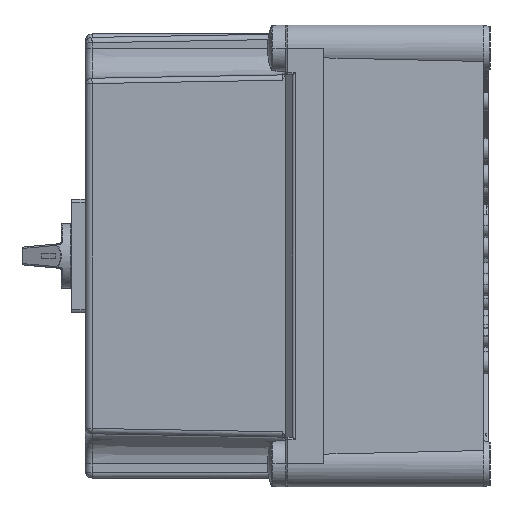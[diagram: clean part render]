
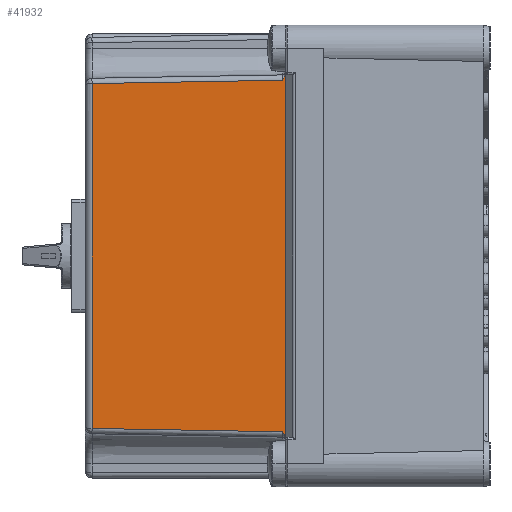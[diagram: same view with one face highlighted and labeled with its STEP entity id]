
A CAD part, left-side view. The second image highlights one B-rep face of the part: STEP entity #41932.
In plain terms, the highlighted planar face has unit normal (-1, 0.018, 0).
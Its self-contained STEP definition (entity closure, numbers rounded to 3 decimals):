
#524=DIRECTION('',(-0.017,-1.,-0.017));
#525=VECTOR('',#524,107.137);
#526=CARTESIAN_POINT('',(-223.096,120.57,-97.097));
#527=LINE('2483',#526,#525);
#528=CARTESIAN_POINT('',(-224.966,13.465,-98.966));
#566=DIRECTION('',(0.,0.,1.));
#567=VECTOR('',#566,194.193);
#568=CARTESIAN_POINT('',(-223.096,120.57,-97.097));
#569=LINE('2465',#568,#567);
#570=DIRECTION('',(0.,0.,-1.));
#571=VECTOR('',#570,205.879);
#572=CARTESIAN_POINT('',(-225.,11.5,102.94));
#573=LINE('2339',#572,#571);
#666=CARTESIAN_POINT('',(-224.966,13.465,98.966));
#668=DIRECTION('',(-0.017,-1.,0.017));
#669=VECTOR('',#668,107.137);
#670=CARTESIAN_POINT('',(-223.096,120.57,97.097));
#671=LINE('2486',#670,#669);
#2092=CARTESIAN_POINT('',(-224.966,13.465,
-98.966));
#2093=CARTESIAN_POINT('',(-224.967,13.396,
-99.051));
#2094=CARTESIAN_POINT('',(-224.969,13.256,
-99.222));
#2095=CARTESIAN_POINT('',(-224.973,13.047,
-99.484));
#2096=CARTESIAN_POINT('',(-224.977,12.842,
-99.748));
#2097=CARTESIAN_POINT('',(-224.98,12.644,
-100.014));
#2098=CARTESIAN_POINT('',(-224.983,12.459,
-100.279));
#2099=CARTESIAN_POINT('',(-224.986,12.286,
-100.545));
#2100=CARTESIAN_POINT('',(-224.989,12.128,
-100.812));
#2101=CARTESIAN_POINT('',(-224.992,11.985,
-101.079));
#2102=CARTESIAN_POINT('',(-224.994,11.86,
-101.346));
#2103=CARTESIAN_POINT('',(-224.996,11.754,
-101.607));
#2104=CARTESIAN_POINT('',(-224.997,11.668,
-101.86));
#2105=CARTESIAN_POINT('',(-224.998,11.603,
-102.097));
#2106=CARTESIAN_POINT('',(-224.999,11.556,
-102.32));
#2107=CARTESIAN_POINT('',(-225.,11.523,
-102.533));
#2108=CARTESIAN_POINT('',(-225.,11.504,
-102.738));
#2109=CARTESIAN_POINT('',(-225.,11.5,
-102.873));
#2110=CARTESIAN_POINT('',(-225.,11.5,
-102.94));
#2431=CARTESIAN_POINT('',(-225.,11.5,
-102.94));
#2461=CARTESIAN_POINT('',(-225.,11.5,102.94));
#18153=CARTESIAN_POINT('',(-225.,11.5,
102.94));
#18154=CARTESIAN_POINT('',(-225.,11.5,
102.873));
#18155=CARTESIAN_POINT('',(-225.,11.504,
102.738));
#18156=CARTESIAN_POINT('',(-225.,11.523,
102.533));
#18157=CARTESIAN_POINT('',(-224.999,11.556,
102.321));
#18158=CARTESIAN_POINT('',(-224.998,11.603,
102.097));
#18159=CARTESIAN_POINT('',(-224.997,11.668,
101.86));
#18160=CARTESIAN_POINT('',(-224.996,11.754,
101.607));
#18161=CARTESIAN_POINT('',(-224.994,11.86,
101.346));
#18162=CARTESIAN_POINT('',(-224.992,11.985,
101.08));
#18163=CARTESIAN_POINT('',(-224.989,12.127,
100.813));
#18164=CARTESIAN_POINT('',(-224.986,12.285,
100.547));
#18165=CARTESIAN_POINT('',(-224.983,12.458,
100.281));
#18166=CARTESIAN_POINT('',(-224.98,12.643,
100.015));
#18167=CARTESIAN_POINT('',(-224.977,12.841,
99.749));
#18168=CARTESIAN_POINT('',(-224.973,13.046,
99.484));
#18169=CARTESIAN_POINT('',(-224.969,13.256,
99.222));
#18170=CARTESIAN_POINT('',(-224.967,13.396,
99.051));
#18171=CARTESIAN_POINT('',(-224.966,13.465,
98.966));
#35273=VERTEX_POINT('',#2431);
#35274=VERTEX_POINT('',#528);
#35276=VERTEX_POINT('',#666);
#35278=VERTEX_POINT('',#2461);
#35581=CARTESIAN_POINT('',(-223.096,120.57,
-97.097));
#35582=CARTESIAN_POINT('',(-223.096,120.57,
97.097));
#35583=VERTEX_POINT('',#35581);
#35584=VERTEX_POINT('',#35582);
#41914=CARTESIAN_POINT('',(-225.,11.5,-109.514));
#41915=DIRECTION('',(1.,-0.017,0.));
#41916=DIRECTION('',(0.,0.,-1.));
#41917=AXIS2_PLACEMENT_3D('',#41914,#41915,#41916);
#41918=PLANE('61',#41917);
#41920=ORIENTED_EDGE('2465',*,*,#41919,.T.);
#41922=ORIENTED_EDGE('2486',*,*,#41921,.T.);
#41924=ORIENTED_EDGE('2262',*,*,#41923,.F.);
#41926=ORIENTED_EDGE('2339',*,*,#41925,.T.);
#41928=ORIENTED_EDGE('2259',*,*,#41927,.F.);
#41929=ORIENTED_EDGE('2483',*,*,#41897,.F.);
#41930=EDGE_LOOP('61',(#41920,#41922,#41924,#41926,#41928,#41929));
#41931=FACE_OUTER_BOUND('61',#41930,.F.);
#2111=B_SPLINE_CURVE_WITH_KNOTS('2259',3,(#2092,#2093,#2094,#2095,#2096,#2097,
#2098,#2099,#2100,#2101,#2102,#2103,#2104,#2105,#2106,#2107,#2108,#2109,#2110),
.UNSPECIFIED.,.F.,.F.,(4,1,1,1,1,1,1,1,1,1,1,1,1,1,1,1,4),(0.,0.063,0.125,
0.188,0.25,0.313,0.375,0.438,0.5,0.563,0.625,0.688,
0.75,0.813,0.875,0.938,1.),.UNSPECIFIED.);
#18172=B_SPLINE_CURVE_WITH_KNOTS('2262',3,(#18153,#18154,#18155,#18156,#18157,
#18158,#18159,#18160,#18161,#18162,#18163,#18164,#18165,#18166,#18167,#18168,
#18169,#18170,#18171),.UNSPECIFIED.,.F.,.F.,(4,1,1,1,1,1,1,1,1,1,1,1,1,1,1,1,4),
(0.,0.063,0.125,0.188,0.25,0.313,0.375,0.438,0.5,0.563,
0.625,0.688,0.75,0.813,0.875,0.938,1.),.UNSPECIFIED.);
#41897=EDGE_CURVE('2483',#35583,#35274,#527,.T.);
#41919=EDGE_CURVE('2465',#35583,#35584,#569,.T.);
#41921=EDGE_CURVE('2486',#35584,#35276,#671,.T.);
#41923=EDGE_CURVE('2262',#35278,#35276,#18172,.T.);
#41925=EDGE_CURVE('2339',#35278,#35273,#573,.T.);
#41927=EDGE_CURVE('2259',#35274,#35273,#2111,.T.);
#41932=ADVANCED_FACE('61',(#41931),#41918,.F.);
